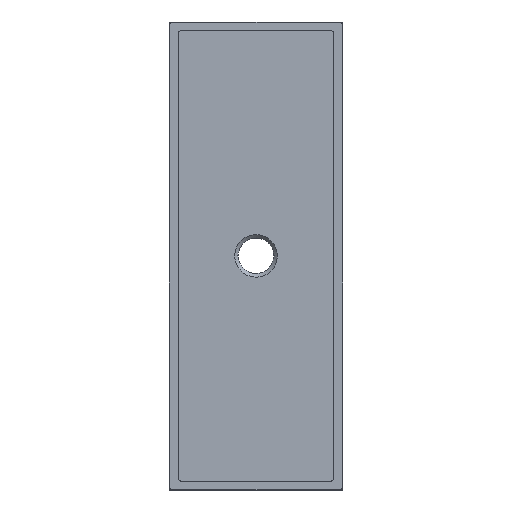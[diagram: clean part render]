
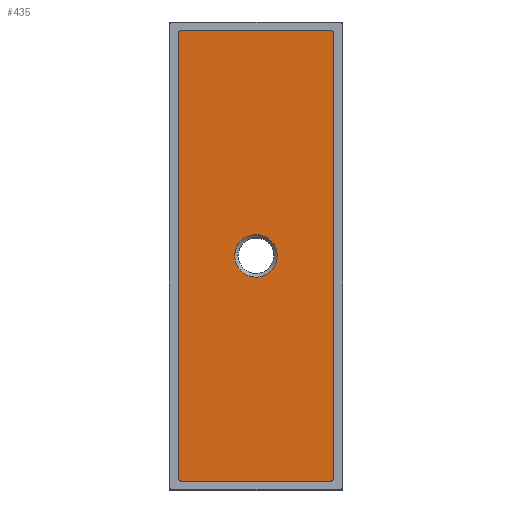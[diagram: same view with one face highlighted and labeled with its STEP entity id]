
A CAD part, top view. The second image highlights one B-rep face of the part: STEP entity #435.
In plain terms, the highlighted planar face has unit normal (0, 0, 1).
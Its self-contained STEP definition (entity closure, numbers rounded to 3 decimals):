
#1 = CARTESIAN_POINT ( 'NONE',  ( 22.191, 57.501, 11. ) ) ;
#18 = VERTEX_POINT ( 'NONE', #1004 ) ;
#27 = VECTOR ( 'NONE', #346, 1000. ) ;
#42 = CARTESIAN_POINT ( 'NONE',  ( -6.434, 121.501, 11. ) ) ;
#59 = CARTESIAN_POINT ( 'NONE',  ( 16.877, 63.626, 11. ) ) ;
#66 = CARTESIAN_POINT ( 'NONE',  ( 17.659, 63.47, 11. ) ) ;
#82 = CARTESIAN_POINT ( 'NONE',  ( 22.191, 58.313, 11. ) ) ;
#110 = CARTESIAN_POINT ( 'NONE',  ( 11.16, 53.744, 11. ) ) ;
#129 = FACE_OUTER_BOUND ( 'NONE', #208, .T. ) ;
#137 = CARTESIAN_POINT ( 'NONE',  ( 38.566, 121.501, 11. ) ) ;
#141 = VERTEX_POINT ( 'NONE', #868 ) ;
#163 = CARTESIAN_POINT ( 'NONE',  ( 38.566, -6.499, 11. ) ) ;
#176 = B_SPLINE_CURVE_WITH_KNOTS ( 'NONE', 3,
 ( #1036, #297, #657, #788, #1027, #1360, #782, #1128, #651, #59, #66, #882, #422, #415, #537, #437, #82, #795 ),
 .UNSPECIFIED., .F., .F.,
 ( 4, 2, 2, 2, 2, 2, 2, 2, 4 ),
 ( 0., 0.125, 0.25, 0.375, 0.5, 0.625, 0.75, 0.875, 1. ),
 .UNSPECIFIED. ) ;
#177 = CIRCLE ( 'NONE', #1035, 1. ) ;
#195 = VERTEX_POINT ( 'NONE', #1344 ) ;
#200 = DIRECTION ( 'NONE',  ( 0., 1., 0. ) ) ;
#208 = EDGE_LOOP ( 'NONE', ( #1367, #371, #689, #1247, #1208, #1089, #512, #538 ) ) ;
#227 = CIRCLE ( 'NONE', #1406, 1. ) ;
#229 = CARTESIAN_POINT ( 'NONE',  ( 14.472, 51.531, 11. ) ) ;
#253 = CARTESIAN_POINT ( 'NONE',  ( 9.941, 56.688, 11. ) ) ;
#297 = CARTESIAN_POINT ( 'NONE',  ( 9.941, 58.313, 11. ) ) ;
#298 = VERTEX_POINT ( 'NONE', #137 ) ;
#316 = VECTOR ( 'NONE', #1447, 1000. ) ;
#324 = CARTESIAN_POINT ( 'NONE',  ( 38.566, -6.499, 11. ) ) ;
#339 = CARTESIAN_POINT ( 'NONE',  ( 20.971, 53.744, 11. ) ) ;
#340 = LINE ( 'NONE', #937, #525 ) ;
#346 = DIRECTION ( 'NONE',  ( 1., 0., 0. ) ) ;
#348 = DIRECTION ( 'NONE',  ( 0., 0., 1. ) ) ;
#356 = FACE_BOUND ( 'NONE', #660, .T. ) ;
#363 = CARTESIAN_POINT ( 'NONE',  ( 10.718, 54.407, 11. ) ) ;
#371 = ORIENTED_EDGE ( 'NONE', *, *, #1051, .T. ) ;
#401 = EDGE_CURVE ( 'NONE', #486, #195, #340, .T. ) ;
#415 = CARTESIAN_POINT ( 'NONE',  ( 20.971, 61.258, 11. ) ) ;
#422 = CARTESIAN_POINT ( 'NONE',  ( 19.822, 62.406, 11. ) ) ;
#425 = CARTESIAN_POINT ( 'NONE',  ( -5.434, 121.501, 11. ) ) ;
#435 = ADVANCED_FACE ( 'NONE', ( #356, #129 ), #1168, .T. ) ;
#437 = CARTESIAN_POINT ( 'NONE',  ( 22.035, 59.094, 11. ) ) ;
#453 = LINE ( 'NONE', #1173, #27 ) ;
#460 = LINE ( 'NONE', #930, #816 ) ;
#469 = DIRECTION ( 'NONE',  ( 0., -1., 0. ) ) ;
#471 = DIRECTION ( 'NONE',  ( 0., -1., 0. ) ) ;
#479 = EDGE_CURVE ( 'NONE', #298, #1398, #177, .T. ) ;
#486 = VERTEX_POINT ( 'NONE', #42 ) ;
#512 = ORIENTED_EDGE ( 'NONE', *, *, #401, .T. ) ;
#525 = VECTOR ( 'NONE', #469, 1000. ) ;
#532 = B_SPLINE_CURVE_WITH_KNOTS ( 'NONE', 3,
 ( #1, #713, #931, #1400, #339, #945, #1284, #1412, #1181, #1067, #229, #1167, #1420, #110, #363, #1308, #253, #721 ),
 .UNSPECIFIED., .F., .F.,
 ( 4, 2, 2, 2, 2, 2, 2, 2, 4 ),
 ( 0., 0.125, 0.25, 0.375, 0.5, 0.625, 0.75, 0.875, 1. ),
 .UNSPECIFIED. ) ;
#537 = CARTESIAN_POINT ( 'NONE',  ( 21.414, 60.595, 11. ) ) ;
#538 = ORIENTED_EDGE ( 'NONE', *, *, #762, .T. ) ;
#543 = CARTESIAN_POINT ( 'NONE',  ( 37.566, 122.501, 11. ) ) ;
#560 = CIRCLE ( 'NONE', #1302, 1. ) ;
#651 = CARTESIAN_POINT ( 'NONE',  ( 15.254, 63.626, 11. ) ) ;
#657 = CARTESIAN_POINT ( 'NONE',  ( 10.096, 59.094, 11. ) ) ;
#660 = EDGE_LOOP ( 'NONE', ( #790, #1432 ) ) ;
#689 = ORIENTED_EDGE ( 'NONE', *, *, #993, .T. ) ;
#713 = CARTESIAN_POINT ( 'NONE',  ( 22.191, 56.689, 11. ) ) ;
#721 = CARTESIAN_POINT ( 'NONE',  ( 9.941, 57.501, 11. ) ) ;
#722 = DIRECTION ( 'NONE',  ( 1., 0., 0. ) ) ;
#730 = AXIS2_PLACEMENT_3D ( 'NONE', #1431, #348, #722 ) ;
#731 = LINE ( 'NONE', #163, #316 ) ;
#735 = EDGE_CURVE ( 'NONE', #1478, #486, #227, .T. ) ;
#743 = CARTESIAN_POINT ( 'NONE',  ( 37.566, -6.499, 11. ) ) ;
#762 = EDGE_CURVE ( 'NONE', #195, #141, #1160, .T. ) ;
#766 = EDGE_CURVE ( 'NONE', #141, #18, #453, .T. ) ;
#780 = EDGE_CURVE ( 'NONE', #1398, #1478, #460, .T. ) ;
#782 = CARTESIAN_POINT ( 'NONE',  ( 12.972, 62.849, 11. ) ) ;
#788 = CARTESIAN_POINT ( 'NONE',  ( 10.717, 60.595, 11. ) ) ;
#790 = ORIENTED_EDGE ( 'NONE', *, *, #948, .T. ) ;
#795 = CARTESIAN_POINT ( 'NONE',  ( 22.191, 57.501, 11. ) ) ;
#813 = CARTESIAN_POINT ( 'NONE',  ( 37.566, 121.501, 11. ) ) ;
#816 = VECTOR ( 'NONE', #935, 1000. ) ;
#841 = CARTESIAN_POINT ( 'NONE',  ( -5.434, 122.501, 11. ) ) ;
#868 = CARTESIAN_POINT ( 'NONE',  ( -5.434, -7.499, 11. ) ) ;
#882 = CARTESIAN_POINT ( 'NONE',  ( 19.16, 62.849, 11. ) ) ;
#922 = DIRECTION ( 'NONE',  ( -1., 0., 0. ) ) ;
#930 = CARTESIAN_POINT ( 'NONE',  ( 37.566, 122.501, 11. ) ) ;
#931 = CARTESIAN_POINT ( 'NONE',  ( 22.035, 55.907, 11. ) ) ;
#935 = DIRECTION ( 'NONE',  ( -1., 0., 0. ) ) ;
#937 = CARTESIAN_POINT ( 'NONE',  ( -6.434, 121.501, 11. ) ) ;
#945 = CARTESIAN_POINT ( 'NONE',  ( 19.823, 52.595, 11. ) ) ;
#948 = EDGE_CURVE ( 'NONE', #997, #1307, #532, .T. ) ;
#993 = EDGE_CURVE ( 'NONE', #1156, #298, #731, .T. ) ;
#997 = VERTEX_POINT ( 'NONE', #1216 ) ;
#1004 = CARTESIAN_POINT ( 'NONE',  ( 37.566, -7.499, 11. ) ) ;
#1019 = AXIS2_PLACEMENT_3D ( 'NONE', #1039, #1509, #922 ) ;
#1027 = CARTESIAN_POINT ( 'NONE',  ( 11.161, 61.258, 11. ) ) ;
#1035 = AXIS2_PLACEMENT_3D ( 'NONE', #813, #1068, #1401 ) ;
#1036 = CARTESIAN_POINT ( 'NONE',  ( 9.941, 57.501, 11. ) ) ;
#1039 = CARTESIAN_POINT ( 'NONE',  ( -5.434, -6.499, 11. ) ) ;
#1051 = EDGE_CURVE ( 'NONE', #18, #1156, #560, .T. ) ;
#1067 = CARTESIAN_POINT ( 'NONE',  ( 15.254, 51.376, 11. ) ) ;
#1068 = DIRECTION ( 'NONE',  ( 0., 0., 1. ) ) ;
#1089 = ORIENTED_EDGE ( 'NONE', *, *, #735, .T. ) ;
#1125 = EDGE_CURVE ( 'NONE', #1307, #997, #176, .T. ) ;
#1128 = CARTESIAN_POINT ( 'NONE',  ( 14.472, 63.47, 11. ) ) ;
#1136 = DIRECTION ( 'NONE',  ( 0., 0., 1. ) ) ;
#1156 = VERTEX_POINT ( 'NONE', #324 ) ;
#1160 = CIRCLE ( 'NONE', #1019, 1. ) ;
#1167 = CARTESIAN_POINT ( 'NONE',  ( 12.972, 52.153, 11. ) ) ;
#1168 = PLANE ( 'NONE',  #730 ) ;
#1170 = CARTESIAN_POINT ( 'NONE',  ( 9.941, 57.501, 11. ) ) ;
#1173 = CARTESIAN_POINT ( 'NONE',  ( -5.434, -7.499, 11. ) ) ;
#1181 = CARTESIAN_POINT ( 'NONE',  ( 16.877, 51.376, 11. ) ) ;
#1208 = ORIENTED_EDGE ( 'NONE', *, *, #780, .T. ) ;
#1216 = CARTESIAN_POINT ( 'NONE',  ( 22.191, 57.501, 11. ) ) ;
#1247 = ORIENTED_EDGE ( 'NONE', *, *, #479, .T. ) ;
#1284 = CARTESIAN_POINT ( 'NONE',  ( 19.16, 52.153, 11. ) ) ;
#1302 = AXIS2_PLACEMENT_3D ( 'NONE', #743, #1320, #471 ) ;
#1307 = VERTEX_POINT ( 'NONE', #1170 ) ;
#1308 = CARTESIAN_POINT ( 'NONE',  ( 10.096, 55.907, 11. ) ) ;
#1320 = DIRECTION ( 'NONE',  ( 0., 0., 1. ) ) ;
#1344 = CARTESIAN_POINT ( 'NONE',  ( -6.434, -6.499, 11. ) ) ;
#1360 = CARTESIAN_POINT ( 'NONE',  ( 12.309, 62.406, 11. ) ) ;
#1367 = ORIENTED_EDGE ( 'NONE', *, *, #766, .T. ) ;
#1398 = VERTEX_POINT ( 'NONE', #543 ) ;
#1400 = CARTESIAN_POINT ( 'NONE',  ( 21.414, 54.407, 11. ) ) ;
#1401 = DIRECTION ( 'NONE',  ( 1., 0., 0. ) ) ;
#1406 = AXIS2_PLACEMENT_3D ( 'NONE', #425, #1136, #200 ) ;
#1412 = CARTESIAN_POINT ( 'NONE',  ( 17.659, 51.531, 11. ) ) ;
#1420 = CARTESIAN_POINT ( 'NONE',  ( 12.309, 52.596, 11. ) ) ;
#1431 = CARTESIAN_POINT ( 'NONE',  ( -10.936, -20.501, 11. ) ) ;
#1432 = ORIENTED_EDGE ( 'NONE', *, *, #1125, .T. ) ;
#1447 = DIRECTION ( 'NONE',  ( 0., 1., 0. ) ) ;
#1478 = VERTEX_POINT ( 'NONE', #841 ) ;
#1509 = DIRECTION ( 'NONE',  ( 0., 0., 1. ) ) ;
